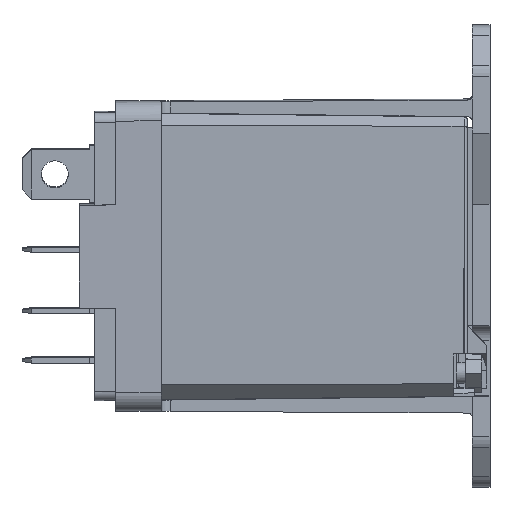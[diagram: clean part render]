
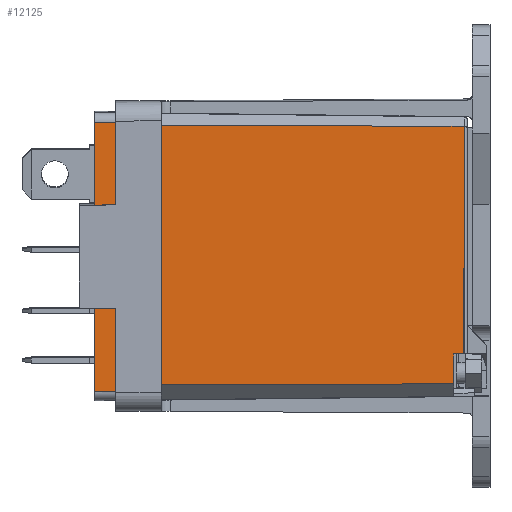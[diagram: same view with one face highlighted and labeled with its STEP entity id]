
A CAD part, top view. The second image highlights one B-rep face of the part: STEP entity #12125.
In plain terms, the highlighted planar face has unit normal (0.011, -0.009, 1).
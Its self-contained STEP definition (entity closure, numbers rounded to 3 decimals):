
#819=PLANE('',#14506);
#1822=LINE('',#20146,#3540);
#1823=LINE('',#20149,#3541);
#1824=LINE('',#20151,#3542);
#1825=LINE('',#20153,#3543);
#1826=LINE('',#20155,#3544);
#1827=LINE('',#20157,#3545);
#1828=LINE('',#20159,#3546);
#1829=LINE('',#20161,#3547);
#1830=LINE('',#20163,#3548);
#1831=LINE('',#20165,#3549);
#3540=VECTOR('',#16366,1000.);
#3541=VECTOR('',#16367,1000.);
#3542=VECTOR('',#16368,1000.);
#3543=VECTOR('',#16369,1000.);
#3544=VECTOR('',#16370,1000.);
#3545=VECTOR('',#16371,1000.);
#3546=VECTOR('',#16372,1000.);
#3547=VECTOR('',#16373,1000.);
#3548=VECTOR('',#16374,1000.);
#3549=VECTOR('',#16375,1000.);
#5925=ORIENTED_EDGE('',*,*,#7891,.T.);
#5926=ORIENTED_EDGE('',*,*,#7892,.T.);
#5927=ORIENTED_EDGE('',*,*,#7893,.T.);
#5928=ORIENTED_EDGE('',*,*,#7894,.T.);
#5929=ORIENTED_EDGE('',*,*,#7895,.T.);
#5930=ORIENTED_EDGE('',*,*,#7896,.T.);
#5931=ORIENTED_EDGE('',*,*,#7897,.T.);
#5932=ORIENTED_EDGE('',*,*,#7898,.T.);
#5933=ORIENTED_EDGE('',*,*,#7899,.T.);
#5934=ORIENTED_EDGE('',*,*,#7900,.T.);
#7891=EDGE_CURVE('',#9686,#9687,#1822,.T.);
#7892=EDGE_CURVE('',#9687,#9688,#1823,.T.);
#7893=EDGE_CURVE('',#9688,#9689,#1824,.T.);
#7894=EDGE_CURVE('',#9689,#9690,#1825,.T.);
#7895=EDGE_CURVE('',#9690,#9691,#1826,.T.);
#7896=EDGE_CURVE('',#9691,#9692,#1827,.T.);
#7897=EDGE_CURVE('',#9692,#9693,#1828,.T.);
#7898=EDGE_CURVE('',#9693,#9694,#1829,.T.);
#7899=EDGE_CURVE('',#9694,#9695,#1830,.T.);
#7900=EDGE_CURVE('',#9695,#9686,#1831,.T.);
#9686=VERTEX_POINT('',#20147);
#9687=VERTEX_POINT('',#20148);
#9688=VERTEX_POINT('',#20150);
#9689=VERTEX_POINT('',#20152);
#9690=VERTEX_POINT('',#20154);
#9691=VERTEX_POINT('',#20156);
#9692=VERTEX_POINT('',#20158);
#9693=VERTEX_POINT('',#20160);
#9694=VERTEX_POINT('',#20162);
#9695=VERTEX_POINT('',#20164);
#11095=EDGE_LOOP('',(#5925,#5926,#5927,#5928,#5929,#5930,#5931,#5932,#5933,
#5934));
#11584=FACE_BOUND('',#11095,.T.);
#12125=ADVANCED_FACE('LABEL',(#11584),#819,.T.);
#14506=AXIS2_PLACEMENT_3D('',#20145,#16364,#16365);
#16364=DIRECTION('',(0.012,-0.009,1.));
#16365=DIRECTION('',(0.,1.,0.009));
#16366=DIRECTION('',(0.,1.,0.009));
#16367=DIRECTION('',(-1.,0.011,0.012));
#16368=DIRECTION('',(0.,-1.,-0.009));
#16369=DIRECTION('',(1.,0.012,-0.011));
#16370=DIRECTION('',(0.,1.,0.009));
#16371=DIRECTION('',(1.,0.002,-0.012));
#16372=DIRECTION('',(0.,1.,0.009));
#16373=DIRECTION('',(1.,0.,-0.012));
#16374=DIRECTION('',(0.,1.,0.009));
#16375=DIRECTION('',(-1.,0.005,0.012));
#20145=CARTESIAN_POINT('',(13.235,-32.152,-0.124));
#20146=CARTESIAN_POINT('',(-16.674,-6.534,0.445));
#20147=CARTESIAN_POINT('',(-16.674,-6.534,0.445));
#20148=CARTESIAN_POINT('',(-16.674,-6.327,0.446));
#20149=CARTESIAN_POINT('',(-16.674,-6.327,0.446));
#20150=CARTESIAN_POINT('',(-22.574,-6.26,0.515));
#20151=CARTESIAN_POINT('',(-22.574,-6.26,0.515));
#20152=CARTESIAN_POINT('',(-22.574,-32.147,0.289));
#20153=CARTESIAN_POINT('',(-22.574,-32.147,0.289));
#20154=CARTESIAN_POINT('',(-16.674,-32.079,0.222));
#20155=CARTESIAN_POINT('',(-16.674,-32.079,0.222));
#20156=CARTESIAN_POINT('',(-16.674,-31.489,0.227));
#20157=CARTESIAN_POINT('',(-16.674,-31.489,0.227));
#20158=CARTESIAN_POINT('',(11.926,-31.428,-0.102));
#20159=CARTESIAN_POINT('',(11.926,-31.428,-0.102));
#20160=CARTESIAN_POINT('',(11.926,-28.55,-0.077));
#20161=CARTESIAN_POINT('',(11.926,-28.55,-0.077));
#20162=CARTESIAN_POINT('',(12.93,-28.55,-0.089));
#20163=CARTESIAN_POINT('',(12.93,-28.55,-0.089));
#20164=CARTESIAN_POINT('',(12.93,-6.672,0.102));
#20165=CARTESIAN_POINT('',(12.93,-6.672,0.102));
